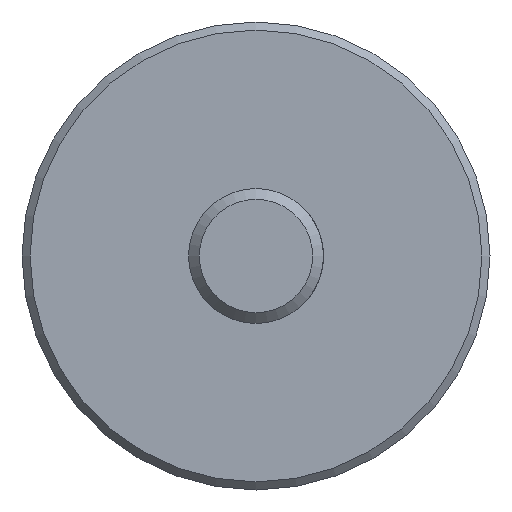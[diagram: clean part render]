
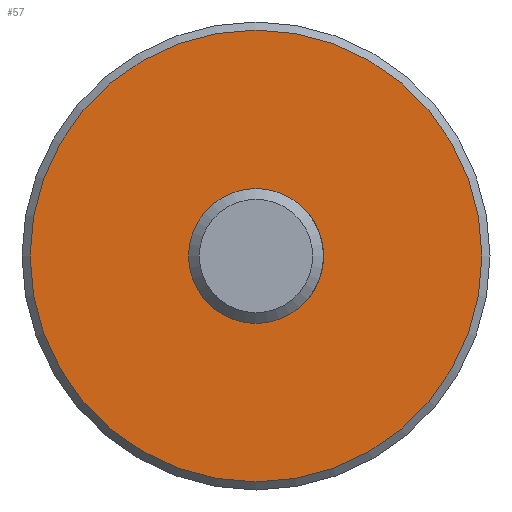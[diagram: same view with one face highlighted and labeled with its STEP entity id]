
A CAD part, front view. The second image highlights one B-rep face of the part: STEP entity #57.
In plain terms, the highlighted planar face has unit normal (0, -1, 0).
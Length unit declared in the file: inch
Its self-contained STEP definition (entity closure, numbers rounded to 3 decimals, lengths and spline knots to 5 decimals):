
#49 = DIRECTION ( 'NONE',  ( 0., 0., 1. ) ) ;
#54 = FACE_BOUND ( 'NONE', #168, .T. ) ;
#57 = ADVANCED_FACE ( 'NONE', ( #276, #54 ), #499, .F. ) ;
#61 = ORIENTED_EDGE ( 'NONE', *, *, #278, .T. ) ;
#69 = CIRCLE ( 'NONE', #109, 0.375 ) ;
#109 = AXIS2_PLACEMENT_3D ( 'NONE', #559, #340, #166 ) ;
#164 = AXIS2_PLACEMENT_3D ( 'NONE', #498, #362, #49 ) ;
#166 = DIRECTION ( 'NONE',  ( 0., 0., 1. ) ) ;
#168 = EDGE_LOOP ( 'NONE', ( #61 ) ) ;
#276 = FACE_OUTER_BOUND ( 'NONE', #513, .T. ) ;
#278 = EDGE_CURVE ( 'NONE', #438, #438, #69, .T. ) ;
#284 = DIRECTION ( 'NONE',  ( 0., 0., 1. ) ) ;
#299 = DIRECTION ( 'NONE',  ( 0., 1., 0. ) ) ;
#302 = CARTESIAN_POINT ( 'NONE',  ( 0., 3.35, 0.375 ) ) ;
#340 = DIRECTION ( 'NONE',  ( 0., 1., 0. ) ) ;
#344 = CARTESIAN_POINT ( 'NONE',  ( 0., 3.35, 1.255 ) ) ;
#362 = DIRECTION ( 'NONE',  ( 0., 1., 0. ) ) ;
#430 = EDGE_CURVE ( 'NONE', #566, #566, #574, .T. ) ;
#438 = VERTEX_POINT ( 'NONE', #302 ) ;
#498 = CARTESIAN_POINT ( 'NONE',  ( 0.375, 3.35, 0. ) ) ;
#499 = PLANE ( 'NONE',  #164 ) ;
#513 = EDGE_LOOP ( 'NONE', ( #526 ) ) ;
#521 = AXIS2_PLACEMENT_3D ( 'NONE', #551, #299, #284 ) ;
#526 = ORIENTED_EDGE ( 'NONE', *, *, #430, .F. ) ;
#551 = CARTESIAN_POINT ( 'NONE',  ( 0., 3.35, 0. ) ) ;
#559 = CARTESIAN_POINT ( 'NONE',  ( 0., 3.35, 0. ) ) ;
#566 = VERTEX_POINT ( 'NONE', #344 ) ;
#574 = CIRCLE ( 'NONE', #521, 1.255 ) ;
